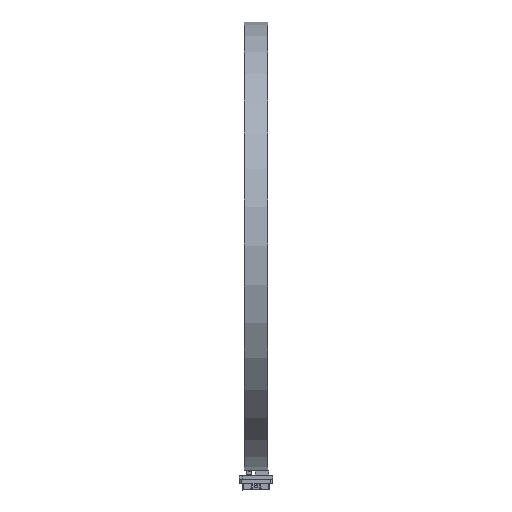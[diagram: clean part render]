
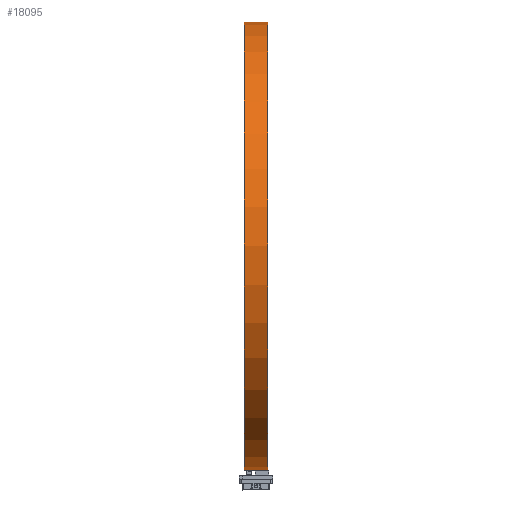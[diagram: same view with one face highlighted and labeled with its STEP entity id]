
A CAD part, left-side view. The second image highlights one B-rep face of the part: STEP entity #18095.
In plain terms, the highlighted cylindrical face has radius 114.4 mm (diameter 228.8 mm), a partial arc.
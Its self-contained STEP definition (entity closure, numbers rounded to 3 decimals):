
#728 = EDGE_LOOP ( 'NONE', ( #65538, #52802, #76446, #52094 ) ) ;
#3761 = CARTESIAN_POINT ( 'NONE',  ( 0., 0., 0. ) ) ;
#7272 = DIRECTION ( 'NONE',  ( 0., 0., -1. ) ) ;
#9072 = VERTEX_POINT ( 'NONE', #22688 ) ;
#12052 = DIRECTION ( 'NONE',  ( 0., 0., -1. ) ) ;
#13883 = VERTEX_POINT ( 'NONE', #46171 ) ;
#18095 = ADVANCED_FACE ( 'NONE', ( #73216 ), #51264, .T. ) ;
#19226 = EDGE_CURVE ( 'NONE', #82766, #79112, #33013, .T. ) ;
#22688 = CARTESIAN_POINT ( 'NONE',  ( 0., 0., -114.4 ) ) ;
#23460 = LINE ( 'NONE', #75448, #39163 ) ;
#27711 = DIRECTION ( 'NONE',  ( 0., -1., 0. ) ) ;
#33013 = CIRCLE ( 'NONE', #77607, 114.4 ) ;
#39163 = VECTOR ( 'NONE', #27711, 1000. ) ;
#39247 = EDGE_CURVE ( 'NONE', #82766, #13883, #68986, .T. ) ;
#42368 = CARTESIAN_POINT ( 'NONE',  ( 0., 0., 114.4 ) ) ;
#42470 = EDGE_CURVE ( 'NONE', #13883, #9072, #49990, .T. ) ;
#46171 = CARTESIAN_POINT ( 'NONE',  ( 0., 0., 114.4 ) ) ;
#49990 = CIRCLE ( 'NONE', #88708, 114.4 ) ;
#51264 = CYLINDRICAL_SURFACE ( 'NONE', #58957, 114.4 ) ;
#52094 = ORIENTED_EDGE ( 'NONE', *, *, #42470, .F. ) ;
#52730 = CARTESIAN_POINT ( 'NONE',  ( 0., 12., 114.4 ) ) ;
#52754 = CARTESIAN_POINT ( 'NONE',  ( 0., 12., 0. ) ) ;
#52802 = ORIENTED_EDGE ( 'NONE', *, *, #19226, .T. ) ;
#58567 = DIRECTION ( 'NONE',  ( 0., -1., 0. ) ) ;
#58957 = AXIS2_PLACEMENT_3D ( 'NONE', #3761, #68625, #7272 ) ;
#59029 = DIRECTION ( 'NONE',  ( 0., -1., 0. ) ) ;
#59462 = DIRECTION ( 'NONE',  ( 0., 0., -1. ) ) ;
#65538 = ORIENTED_EDGE ( 'NONE', *, *, #39247, .F. ) ;
#65554 = CARTESIAN_POINT ( 'NONE',  ( 0., 12., -114.4 ) ) ;
#68543 = DIRECTION ( 'NONE',  ( 0., -1., 0. ) ) ;
#68625 = DIRECTION ( 'NONE',  ( 0., -1., 0. ) ) ;
#68986 = LINE ( 'NONE', #42368, #83295 ) ;
#73216 = FACE_OUTER_BOUND ( 'NONE', #728, .T. ) ;
#75448 = CARTESIAN_POINT ( 'NONE',  ( 0., 0., -114.4 ) ) ;
#76446 = ORIENTED_EDGE ( 'NONE', *, *, #88526, .T. ) ;
#77607 = AXIS2_PLACEMENT_3D ( 'NONE', #52754, #59029, #12052 ) ;
#79112 = VERTEX_POINT ( 'NONE', #65554 ) ;
#79230 = CARTESIAN_POINT ( 'NONE',  ( 0., 0., 0. ) ) ;
#82766 = VERTEX_POINT ( 'NONE', #52730 ) ;
#83295 = VECTOR ( 'NONE', #68543, 1000. ) ;
#88526 = EDGE_CURVE ( 'NONE', #79112, #9072, #23460, .T. ) ;
#88708 = AXIS2_PLACEMENT_3D ( 'NONE', #79230, #58567, #59462 ) ;
